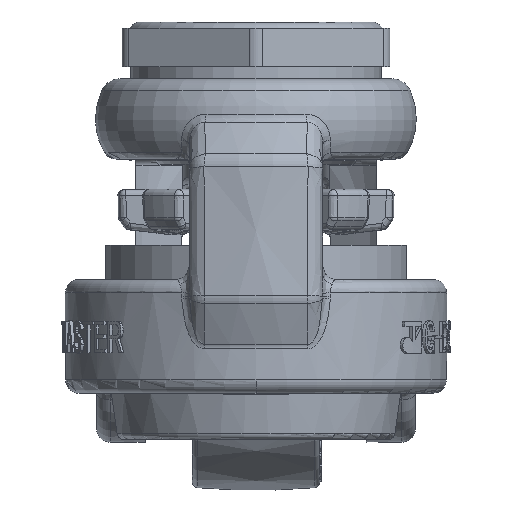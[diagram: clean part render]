
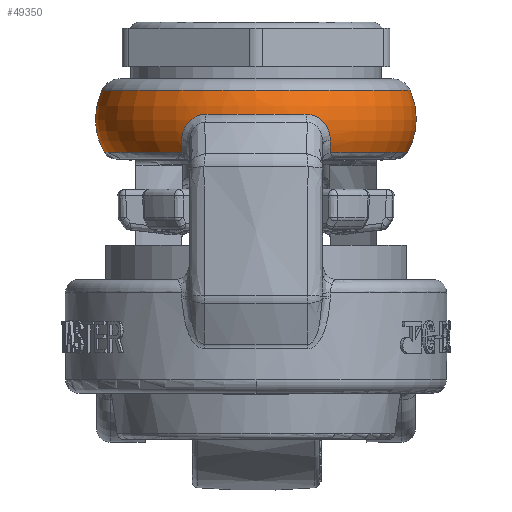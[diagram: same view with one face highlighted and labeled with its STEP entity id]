
A CAD part, left-side view. The second image highlights one B-rep face of the part: STEP entity #49350.
In plain terms, the highlighted toroidal (fillet/blend) face has major radius 14 mm and minor radius 10 mm.
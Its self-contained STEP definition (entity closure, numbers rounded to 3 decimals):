
#552=TOROIDAL_SURFACE('',#52473,14.,10.);
#1562=CIRCLE('',#52467,23.952);
#1567=CIRCLE('',#52474,23.035);
#1568=CIRCLE('',#52475,10.);
#1569=CIRCLE('',#52476,23.974);
#1570=CIRCLE('',#52477,22.66);
#1571=CIRCLE('',#52478,22.66);
#1572=CIRCLE('',#52479,23.974);
#5095=B_SPLINE_CURVE_WITH_KNOTS('',3,(#83486,#83487,#83488,#83489),
 .UNSPECIFIED.,.F.,.F.,(4,4),(-0.503,0.),.UNSPECIFIED.);
#5097=B_SPLINE_CURVE_WITH_KNOTS('',3,(#83523,#83524,#83525,#83526,#83527,
#83528),.UNSPECIFIED.,.F.,.F.,(4,1,1,4),(0.,0.303,0.378,
0.529),.UNSPECIFIED.);
#5099=B_SPLINE_CURVE_WITH_KNOTS('',3,(#83568,#83569,#83570,#83571,#83572,
#83573),.UNSPECIFIED.,.F.,.F.,(4,1,1,4),(0.,0.151,0.227,
0.529),.UNSPECIFIED.);
#5100=B_SPLINE_CURVE_WITH_KNOTS('',3,(#83593,#83594,#83595,#83596),
 .UNSPECIFIED.,.F.,.F.,(4,4),(-0.503,0.),
 .UNSPECIFIED.);
#5108=B_SPLINE_CURVE_WITH_KNOTS('',3,(#83708,#83709,#83710,#83711,#83712,
#83713),.UNSPECIFIED.,.F.,.F.,(4,1,1,4),(0.,0.302,0.503,
0.704),.UNSPECIFIED.);
#5109=B_SPLINE_CURVE_WITH_KNOTS('',3,(#83715,#83716,#83717,#83718),
 .UNSPECIFIED.,.F.,.F.,(4,4),(0.,0.257),.UNSPECIFIED.);
#5110=B_SPLINE_CURVE_WITH_KNOTS('',3,(#83723,#83724,#83725,#83726),
 .UNSPECIFIED.,.F.,.F.,(4,4),(0.,0.257),.UNSPECIFIED.);
#5111=B_SPLINE_CURVE_WITH_KNOTS('',3,(#83728,#83729,#83730,#83731,#83732,
#83733),.UNSPECIFIED.,.F.,.F.,(4,1,1,4),(0.,0.101,0.302,
0.704),.UNSPECIFIED.);
#7579=FACE_OUTER_BOUND('',#10581,.T.);
#10581=EDGE_LOOP('',(#35079,#35080,#35081,#35082,#35083,#35084,#35085,#35086,
#35087,#35088,#35089,#35090,#35091,#35092,#35093,#35094));
#19895=VERTEX_POINT('',#83460);
#19896=VERTEX_POINT('',#83484);
#19898=VERTEX_POINT('',#83521);
#19900=VERTEX_POINT('',#83531);
#19902=VERTEX_POINT('',#83566);
#19904=VERTEX_POINT('',#83591);
#19909=VERTEX_POINT('',#83701);
#19910=VERTEX_POINT('',#83703);
#19911=VERTEX_POINT('',#83705);
#19912=VERTEX_POINT('',#83707);
#19913=VERTEX_POINT('',#83714);
#19914=VERTEX_POINT('',#83720);
#19915=VERTEX_POINT('',#83722);
#19916=VERTEX_POINT('',#83727);
#25290=EDGE_CURVE('',#19896,#19895,#5095,.T.);
#25293=EDGE_CURVE('',#19898,#19896,#5097,.T.);
#25295=EDGE_CURVE('',#19900,#19898,#1562,.T.);
#25299=EDGE_CURVE('',#19902,#19900,#5099,.T.);
#25301=EDGE_CURVE('',#19904,#19902,#5100,.T.);
#25312=EDGE_CURVE('',#19909,#19909,#1567,.T.);
#25313=EDGE_CURVE('',#19909,#19910,#1568,.T.);
#25314=EDGE_CURVE('',#19911,#19910,#1569,.T.);
#25315=EDGE_CURVE('',#19912,#19911,#5108,.T.);
#25316=EDGE_CURVE('',#19913,#19912,#5109,.T.);
#25317=EDGE_CURVE('',#19895,#19913,#1570,.T.);
#25318=EDGE_CURVE('',#19914,#19904,#1571,.T.);
#25319=EDGE_CURVE('',#19915,#19914,#5110,.T.);
#25320=EDGE_CURVE('',#19916,#19915,#5111,.T.);
#25321=EDGE_CURVE('',#19910,#19916,#1572,.T.);
#35079=ORIENTED_EDGE('',*,*,#25312,.F.);
#35080=ORIENTED_EDGE('',*,*,#25313,.T.);
#35081=ORIENTED_EDGE('',*,*,#25314,.F.);
#35082=ORIENTED_EDGE('',*,*,#25315,.F.);
#35083=ORIENTED_EDGE('',*,*,#25316,.F.);
#35084=ORIENTED_EDGE('',*,*,#25317,.F.);
#35085=ORIENTED_EDGE('',*,*,#25290,.F.);
#35086=ORIENTED_EDGE('',*,*,#25293,.F.);
#35087=ORIENTED_EDGE('',*,*,#25295,.F.);
#35088=ORIENTED_EDGE('',*,*,#25299,.F.);
#35089=ORIENTED_EDGE('',*,*,#25301,.F.);
#35090=ORIENTED_EDGE('',*,*,#25318,.F.);
#35091=ORIENTED_EDGE('',*,*,#25319,.F.);
#35092=ORIENTED_EDGE('',*,*,#25320,.F.);
#35093=ORIENTED_EDGE('',*,*,#25321,.F.);
#35094=ORIENTED_EDGE('',*,*,#25313,.F.);
#49350=ADVANCED_FACE('',(#7579),#552,.T.);
#52467=AXIS2_PLACEMENT_3D('',#83533,#58426,#58427);
#52473=AXIS2_PLACEMENT_3D('',#83700,#58440,#58441);
#52474=AXIS2_PLACEMENT_3D('',#83702,#58442,#58443);
#52475=AXIS2_PLACEMENT_3D('',#83704,#58444,#58445);
#52476=AXIS2_PLACEMENT_3D('',#83706,#58446,#58447);
#52477=AXIS2_PLACEMENT_3D('',#83719,#58448,#58449);
#52478=AXIS2_PLACEMENT_3D('',#83721,#58450,#58451);
#52479=AXIS2_PLACEMENT_3D('',#83734,#58452,#58453);
#58426=DIRECTION('center_axis',(0.,0.,
-1.));
#58427=DIRECTION('ref_axis',(1.,0.,0.));
#58440=DIRECTION('center_axis',(0.,0.,
1.));
#58441=DIRECTION('ref_axis',(1.,0.,0.));
#58442=DIRECTION('center_axis',(0.,0.,
1.));
#58443=DIRECTION('ref_axis',(-1.,0.,0.));
#58444=DIRECTION('center_axis',(0.,-1.,0.));
#58445=DIRECTION('ref_axis',(-1.,0.,0.));
#58446=DIRECTION('center_axis',(0.,0.,
-1.));
#58447=DIRECTION('ref_axis',(-1.,0.,0.));
#58448=DIRECTION('center_axis',(0.,0.,
-1.));
#58449=DIRECTION('ref_axis',(-0.241,-0.971,0.));
#58450=DIRECTION('center_axis',(0.,0.,
-1.));
#58451=DIRECTION('ref_axis',(-0.241,0.971,0.));
#58452=DIRECTION('center_axis',(0.,0.,
-1.));
#58453=DIRECTION('ref_axis',(-1.,0.,0.));
#83460=CARTESIAN_POINT('',(12.972,-18.58,-19.5));
#83484=CARTESIAN_POINT('',(15.169,-18.47,-15.909));
#83486=CARTESIAN_POINT('Ctrl Pts',(15.169,-18.47,-15.909));
#83487=CARTESIAN_POINT('Ctrl Pts',(14.843,-18.486,-17.273));
#83488=CARTESIAN_POINT('Ctrl Pts',(14.041,-18.526,-18.516));
#83489=CARTESIAN_POINT('Ctrl Pts',(12.972,-18.58,-19.5));
#83521=CARTESIAN_POINT('',(17.797,-16.03,-13.521));
#83523=CARTESIAN_POINT('Ctrl Pts',(17.797,-16.03,-13.521));
#83524=CARTESIAN_POINT('Ctrl Pts',(17.174,-16.722,-13.521));
#83525=CARTESIAN_POINT('Ctrl Pts',(16.344,-17.589,-13.808));
#83526=CARTESIAN_POINT('Ctrl Pts',(15.501,-18.33,-14.903));
#83527=CARTESIAN_POINT('Ctrl Pts',(15.266,-18.465,-15.499));
#83528=CARTESIAN_POINT('Ctrl Pts',(15.169,-18.47,-15.909));
#83531=CARTESIAN_POINT('',(17.797,16.03,-13.521));
#83533=CARTESIAN_POINT('Origin',(0.,0.,
-13.521));
#83566=CARTESIAN_POINT('',(15.169,18.47,-15.909));
#83568=CARTESIAN_POINT('Ctrl Pts',(15.169,18.47,-15.909));
#83569=CARTESIAN_POINT('Ctrl Pts',(15.266,18.465,-15.499));
#83570=CARTESIAN_POINT('Ctrl Pts',(15.501,18.33,-14.903));
#83571=CARTESIAN_POINT('Ctrl Pts',(16.343,17.589,-13.808));
#83572=CARTESIAN_POINT('Ctrl Pts',(17.174,16.722,-13.521));
#83573=CARTESIAN_POINT('Ctrl Pts',(17.797,16.03,-13.521));
#83591=CARTESIAN_POINT('',(12.972,18.58,-19.5));
#83593=CARTESIAN_POINT('Ctrl Pts',(12.972,18.58,-19.5));
#83594=CARTESIAN_POINT('Ctrl Pts',(14.041,18.526,-18.516));
#83595=CARTESIAN_POINT('Ctrl Pts',(14.843,18.486,-17.273));
#83596=CARTESIAN_POINT('Ctrl Pts',(15.169,18.47,-15.909));
#83700=CARTESIAN_POINT('Origin',(0.,0.,
-14.5));
#83701=CARTESIAN_POINT('',(-23.035,0.,-10.214));
#83702=CARTESIAN_POINT('Origin',(0.,0.,
-10.214));
#83703=CARTESIAN_POINT('',(-23.974,0.,-13.784));
#83704=CARTESIAN_POINT('Origin',(-14.,0.,-14.5));
#83705=CARTESIAN_POINT('',(-22.777,-7.481,-13.784));
#83706=CARTESIAN_POINT('Origin',(0.,0.,
-13.784));
#83707=CARTESIAN_POINT('',(-20.723,-11.102,-17.592));
#83708=CARTESIAN_POINT('Ctrl Pts',(-20.723,-11.102,
-17.592));
#83709=CARTESIAN_POINT('Ctrl Pts',(-21.021,-11.089,
-16.806));
#83710=CARTESIAN_POINT('Ctrl Pts',(-21.508,-10.687,
-15.485));
#83711=CARTESIAN_POINT('Ctrl Pts',(-22.175,-9.238,
-14.09));
#83712=CARTESIAN_POINT('Ctrl Pts',(-22.584,-8.069,
-13.784));
#83713=CARTESIAN_POINT('Ctrl Pts',(-22.777,-7.481,
-13.784));
#83714=CARTESIAN_POINT('',(-19.728,-11.148,-19.5));
#83715=CARTESIAN_POINT('Ctrl Pts',(-19.728,-11.148,
-19.5));
#83716=CARTESIAN_POINT('Ctrl Pts',(-20.135,-11.128,
-18.904));
#83717=CARTESIAN_POINT('Ctrl Pts',(-20.47,-11.113,
-18.263));
#83718=CARTESIAN_POINT('Ctrl Pts',(-20.723,-11.102,
-17.592));
#83719=CARTESIAN_POINT('Origin',(0.,0.,
-19.5));
#83720=CARTESIAN_POINT('',(-19.728,11.148,-19.5));
#83721=CARTESIAN_POINT('Origin',(0.,0.,
-19.5));
#83722=CARTESIAN_POINT('',(-20.723,11.102,-17.592));
#83723=CARTESIAN_POINT('Ctrl Pts',(-20.723,11.102,-17.592));
#83724=CARTESIAN_POINT('Ctrl Pts',(-20.47,11.113,-18.263));
#83725=CARTESIAN_POINT('Ctrl Pts',(-20.135,11.128,-18.904));
#83726=CARTESIAN_POINT('Ctrl Pts',(-19.728,11.148,-19.5));
#83727=CARTESIAN_POINT('',(-22.777,7.481,-13.784));
#83728=CARTESIAN_POINT('Ctrl Pts',(-22.777,7.481,-13.784));
#83729=CARTESIAN_POINT('Ctrl Pts',(-22.681,7.775,-13.784));
#83730=CARTESIAN_POINT('Ctrl Pts',(-22.377,8.659,-13.884));
#83731=CARTESIAN_POINT('Ctrl Pts',(-21.691,10.447,-14.926));
#83732=CARTESIAN_POINT('Ctrl Pts',(-21.12,11.084,-16.544));
#83733=CARTESIAN_POINT('Ctrl Pts',(-20.723,11.102,-17.592));
#83734=CARTESIAN_POINT('Origin',(0.,0.,
-13.784));
